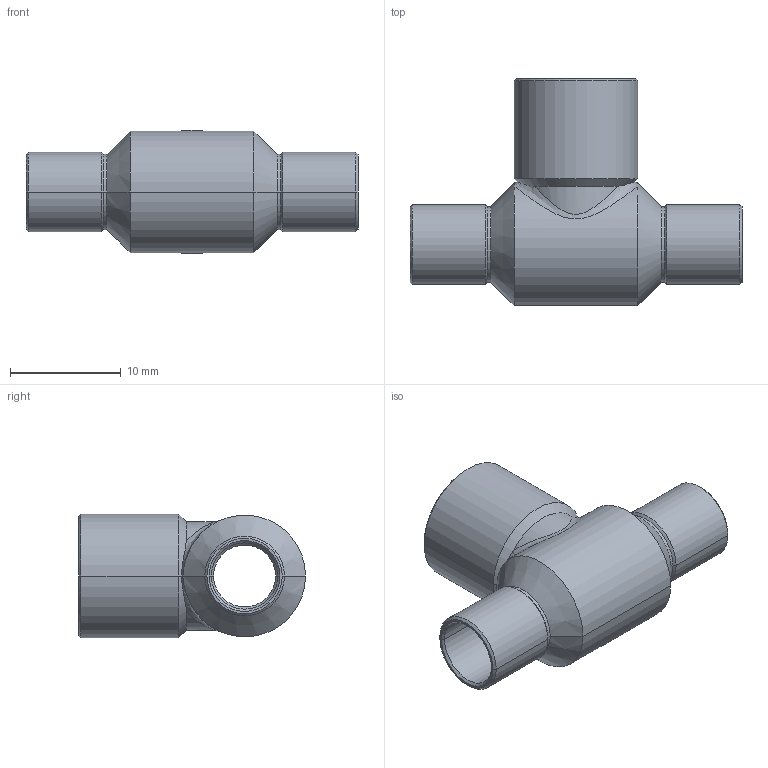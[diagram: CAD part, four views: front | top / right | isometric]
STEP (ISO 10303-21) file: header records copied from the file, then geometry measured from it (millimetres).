
FILE_DESCRIPTION((''),'2;1');
FILE_NAME('P:\Bouwmaten\z-maattekeningen 3D\5000\5130\51306106.stp','2005-10-26T11:53:58',('Kris'),(''),'Autodesk Inventor 8','Autodesk Inventor 8','');
FILE_SCHEMA(('AUTOMOTIVE_DESIGN { 1 0 10303 214 1 1 1 1 }'));
Length unit declared in the file: millimetre
Products named in the file (1): 51306106
Bounding box: 30 x 20.5 x 11.2 mm (x, y, z)
Volume: 658.2 mm3; surface area: 2242.5 mm2
Topology: 1 solids, 1 shells, 65 faces, 148 edges, 84 vertices
Faces by surface type: cone 28, cylinder 20, bspline 14, plane 3
Entity records: 2590 total; most frequent: CARTESIAN_POINT 1169, ORIENTED_EDGE 296, DIRECTION 288, EDGE_CURVE 148, AXIS2_PLACEMENT_3D 117, VERTEX_POINT 84, EDGE_LOOP 68, CIRCLE 65
